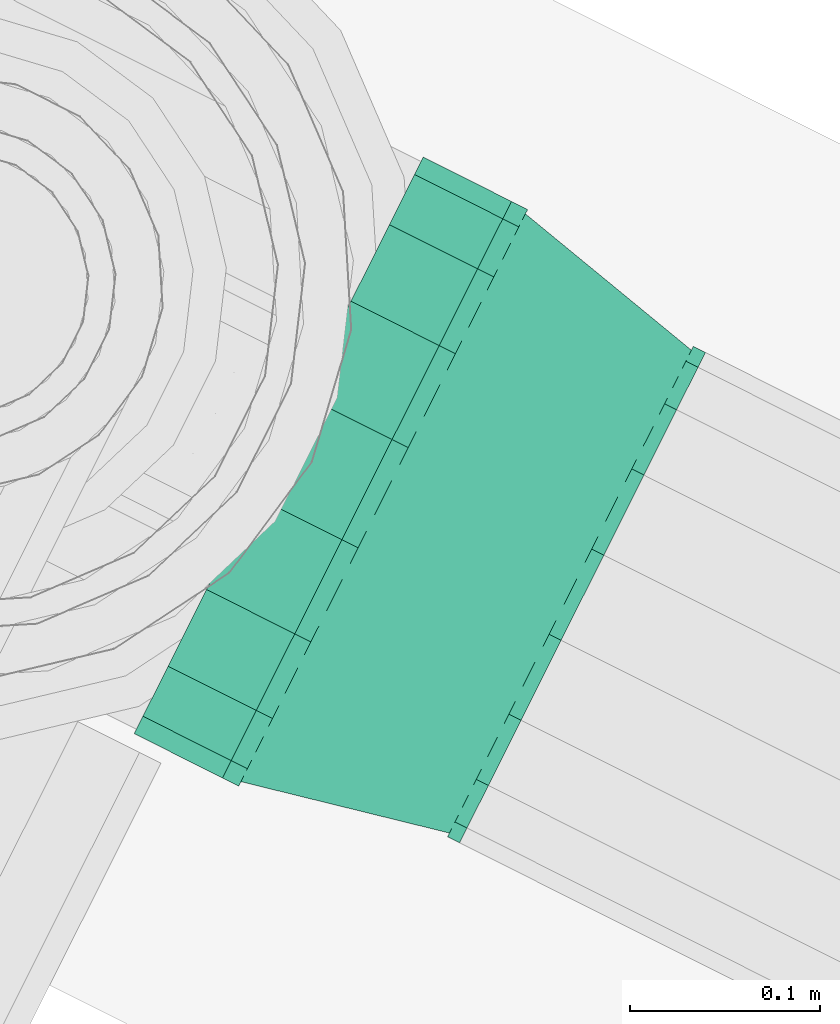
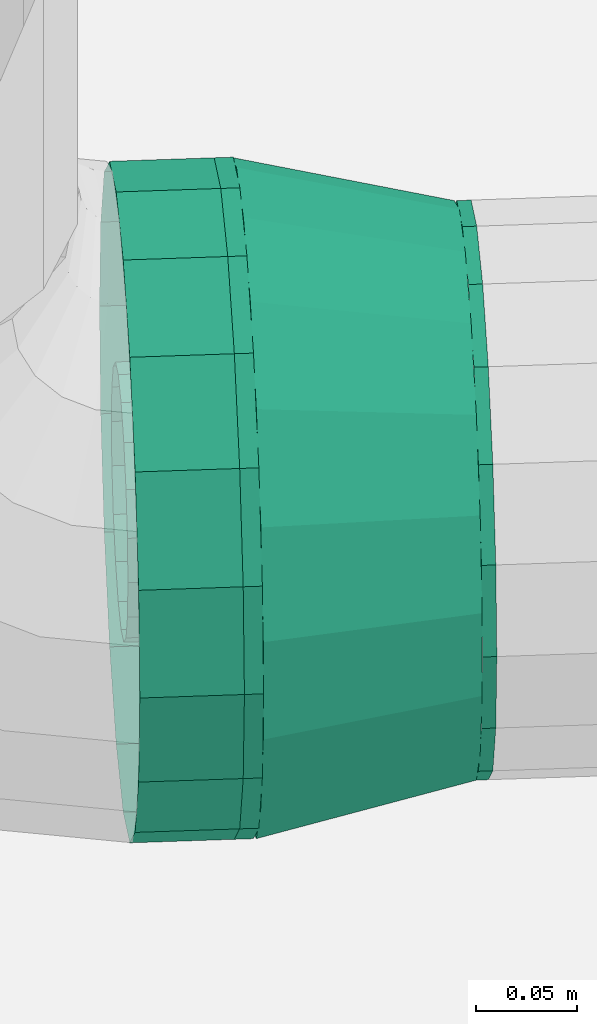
# One storey, part 115 of 152: 1 flow fitting, 1 flow segment.
"""IFC2X3 building model written with IfcOpenShell, lengths in metres."""

from ifc_helpers import new_model, si_unit, derived_unit, direction, frame, origin, place, context, subcontext, project, spatial, face_set, surface_model, source, transform, mapped, material, type_object, type_shapes, element, save


model = new_model("IFC2X3")

# Units and contexts
model_context = context("Model", 3, precision=5.2338327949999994e-05, world=origin(), true_north=direction((0.0, 1.0)))
body_context = subcontext(model_context, "Body", "Model", "MODEL_VIEW")
ifc_project = project(units=[si_unit("LENGTHUNIT", "METRE"), si_unit("AREAUNIT", "SQUARE_METRE"), si_unit("VOLUMEUNIT", "CUBIC_METRE"), si_unit("MASSUNIT", "GRAM", prefix="KILO"), si_unit("PLANEANGLEUNIT", "RADIAN"), derived_unit("THERMALTRANSMITTANCEUNIT", [(si_unit("MASSUNIT", "GRAM", prefix="KILO"), 1), (si_unit("THERMODYNAMICTEMPERATUREUNIT", "KELVIN"), -1), (si_unit("TIMEUNIT", "SECOND"), -3)])], contexts=[model_context])

# Site, building, storey
site_placement = place(None, frame((0.0, 0.0, 0.0), z_axis=(0.0, 0.0, 1.0), x_axis=(0.8939966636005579, -0.4480736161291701, 0.0)))
site = spatial("IfcSite", under=ifc_project, at=site_placement, Name="Default", CompositionType="ELEMENT")
building_placement = place(site_placement, origin())
building = spatial("IfcBuilding", under=site, at=building_placement, CompositionType="ELEMENT")
storey_placement = place(building_placement, frame((0.0, 0.0, 2.7499999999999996)))
storey = spatial("IfcBuildingStorey", under=building, at=storey_placement, Name="1. Obergeschoss", CompositionType="ELEMENT", Elevation=2.7499999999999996)

# Flow fitting
ifc_material = material(Name="IfcSurfaceStyle #9317")
distribution_element_type_1 = type_object("IfcDistributionElementType", Name="Übergangsstück 230215:Übergangsstück 230215", material=ifc_material)
shared_shape_1 = source(origin(), body_context, "Body", "SurfaceModel", [
    surface_model("IfcFaceBasedSurfaceModel", [(9.994770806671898, 7.282758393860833, 3.325154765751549), (9.994770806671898, 7.285439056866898, 3.3403575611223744), (9.987621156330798, 7.285439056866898, 3.3403575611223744), (9.987621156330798, 7.282758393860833, 3.325154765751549), (9.994770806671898, 7.293157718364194, 3.3537266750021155), (9.987621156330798, 7.293157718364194, 3.3537266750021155), (9.994770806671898, 7.304983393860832, 3.363649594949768), (9.987621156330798, 7.304983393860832, 3.363649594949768), (9.994770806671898, 7.319489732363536, 3.368929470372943), (9.987621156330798, 7.319489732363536, 3.368929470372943), (9.994770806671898, 7.334927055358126, 3.3689294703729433), (9.987621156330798, 7.334927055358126, 3.3689294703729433), (9.994770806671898, 7.349433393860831, 3.3636495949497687), (9.987621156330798, 7.349433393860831, 3.3636495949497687), (9.994770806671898, 7.3612590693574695, 3.353726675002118), (9.987621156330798, 7.3612590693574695, 3.353726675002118), (9.994770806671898, 7.368977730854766, 3.3403575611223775), (9.987621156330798, 7.368977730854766, 3.3403575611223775), (9.994770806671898, 7.371658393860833, 3.3251547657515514), (9.987621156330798, 7.371658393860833, 3.3251547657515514), (9.994770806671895, 7.368977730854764, 3.3099519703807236), (9.987621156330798, 7.368977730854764, 3.309951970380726), (9.994770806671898, 7.361259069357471, 3.2965828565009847), (9.987621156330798, 7.361259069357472, 3.2965828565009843), (9.994770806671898, 7.349433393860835, 3.2866599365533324), (9.987621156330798, 7.349433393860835, 3.2866599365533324), (9.994770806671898, 7.334927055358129, 3.2813800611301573), (9.987621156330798, 7.334927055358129, 3.2813800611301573), (9.994770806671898, 7.3194897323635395, 3.2813800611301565), (9.987621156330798, 7.3194897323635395, 3.2813800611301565), (9.994770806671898, 7.304983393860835, 3.2866599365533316), (9.987621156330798, 7.304983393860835, 3.2866599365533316), (9.994770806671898, 7.293157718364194, 3.296582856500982), (9.987621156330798, 7.293157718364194, 3.296582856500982), (9.994770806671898, 7.2854390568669, 3.3099519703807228), (9.987621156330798, 7.2854390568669, 3.3099519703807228), (9.987621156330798, 7.327208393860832, 3.36960476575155), (9.987621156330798, 7.342411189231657, 3.3669241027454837), (9.877299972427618, 7.35109850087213, 3.390792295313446), (9.877299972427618, 7.3272083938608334, 3.39500476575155), (9.987621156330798, 7.3557803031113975, 3.359205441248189), (9.877299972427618, 7.372107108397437, 3.3786629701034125), (9.987621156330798, 7.36570322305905, 3.3473797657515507), (9.877299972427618, 7.387700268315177, 3.360079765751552), (9.987621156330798, 7.370983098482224, 3.3328734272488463), (9.877299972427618, 7.395997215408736, 3.3372840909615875), (9.987621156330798, 7.370983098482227, 3.3174361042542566), (9.877299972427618, 7.395997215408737, 3.3130254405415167), (9.987621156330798, 7.365703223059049, 3.3029297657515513), (9.877299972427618, 7.387700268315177, 3.290229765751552), (9.987621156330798, 7.355780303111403, 3.291104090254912), (9.877299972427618, 7.372107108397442, 3.27164656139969), (9.987621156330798, 7.342411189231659, 3.283385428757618), (9.877299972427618, 7.351098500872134, 3.259517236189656), (9.987621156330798, 7.327208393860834, 3.2807047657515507), (9.877299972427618, 7.327208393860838, 3.2553047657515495), (9.987621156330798, 7.312005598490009, 3.2833854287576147), (9.877299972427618, 7.303318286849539, 3.2595172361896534), (9.987621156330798, 7.2986364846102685, 3.2911040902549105), (9.877299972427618, 7.28230967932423, 3.2716465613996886), (9.987621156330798, 7.288713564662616, 3.302929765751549), (9.877299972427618, 7.266716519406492, 3.290229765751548), (9.987621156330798, 7.283433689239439, 3.3174361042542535), (9.877299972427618, 7.258419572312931, 3.3130254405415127), (9.987621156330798, 7.2834336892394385, 3.3328734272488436), (9.877299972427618, 7.25841957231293, 3.3372840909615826), (9.987621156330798, 7.288713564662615, 3.347379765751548), (9.877299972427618, 7.266716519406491, 3.3600797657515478), (9.987621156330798, 7.298636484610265, 3.3592054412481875), (9.877299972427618, 7.282309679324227, 3.378662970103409), (9.987621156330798, 7.312005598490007, 3.3669241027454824), (9.877299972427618, 7.303318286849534, 3.390792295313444), (9.87729997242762, 7.257358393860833, 3.325154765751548), (9.87729997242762, 7.261570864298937, 3.349044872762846), (9.8677708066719, 7.261570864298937, 3.349044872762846), (9.8677708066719, 7.257358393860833, 3.325154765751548), (9.87729997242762, 7.273700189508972, 3.370053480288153), (9.8677708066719, 7.273700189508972, 3.370053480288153), (9.87729997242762, 7.2922833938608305, 3.385646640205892), (9.8677708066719, 7.2922833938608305, 3.385646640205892), (9.87729997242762, 7.315079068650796, 3.393943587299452), (9.8677708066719, 7.315079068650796, 3.393943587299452), (9.87729997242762, 7.339337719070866, 3.3939435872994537), (9.8677708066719, 7.339337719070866, 3.3939435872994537), (9.87729997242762, 7.362133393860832, 3.3856466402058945), (9.8677708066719, 7.362133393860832, 3.3856466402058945), (9.87729997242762, 7.380716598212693, 3.3700534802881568), (9.8677708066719, 7.380716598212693, 3.3700534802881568), (9.87729997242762, 7.392845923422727, 3.3490448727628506), (9.8677708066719, 7.392845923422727, 3.3490448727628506), (9.87729997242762, 7.397058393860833, 3.325154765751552), (9.8677708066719, 7.397058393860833, 3.325154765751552), (9.87729997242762, 7.392845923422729, 3.301264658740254), (9.8677708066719, 7.392845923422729, 3.301264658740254), (9.87729997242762, 7.380716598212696, 3.2802560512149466), (9.8677708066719, 7.380716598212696, 3.2802560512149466), (9.87729997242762, 7.362133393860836, 3.2646628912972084), (9.8677708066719, 7.362133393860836, 3.2646628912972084), (9.87729997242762, 7.339337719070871, 3.256365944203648), (9.8677708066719, 7.339337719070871, 3.256365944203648), (9.87729997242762, 7.3150790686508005, 3.256365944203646), (9.8677708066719, 7.3150790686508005, 3.256365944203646), (9.87729997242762, 7.292283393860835, 3.2646628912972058), (9.8677708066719, 7.292283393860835, 3.2646628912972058), (9.87729997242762, 7.273700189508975, 3.2802560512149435), (9.8677708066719, 7.273700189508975, 3.2802560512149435), (9.87729997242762, 7.261570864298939, 3.301264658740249), (9.8677708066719, 7.261570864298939, 3.301264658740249), (9.994770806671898, 7.182758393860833, 3.3251547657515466), (9.994770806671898, 7.191469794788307, 3.374559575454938), (9.987621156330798, 7.191469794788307, 3.374559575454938), (9.987621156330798, 7.182758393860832, 3.3251547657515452), (9.994770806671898, 7.216553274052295, 3.418005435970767), (9.987621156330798, 7.216553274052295, 3.418005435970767), (9.994770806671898, 7.254983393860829, 3.4502521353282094), (9.987621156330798, 7.254983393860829, 3.4502521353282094), (9.994770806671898, 7.302124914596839, 3.4674102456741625), (9.987621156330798, 7.302124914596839, 3.4674102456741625), (9.994770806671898, 7.352291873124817, 3.467410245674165), (9.987621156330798, 7.352291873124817, 3.467410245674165), (9.994770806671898, 7.3994333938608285, 3.4502521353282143), (9.987621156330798, 7.3994333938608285, 3.4502521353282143), (9.994770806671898, 7.437863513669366, 3.4180054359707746), (9.987621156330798, 7.437863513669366, 3.4180054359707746), (9.994770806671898, 7.462946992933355, 3.3745595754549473), (9.987621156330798, 7.462946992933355, 3.3745595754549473), (9.994770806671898, 7.471658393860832, 3.3251547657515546), (9.987621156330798, 7.471658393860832, 3.3251547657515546), (9.994770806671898, 7.462946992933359, 3.275749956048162), (9.987621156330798, 7.462946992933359, 3.275749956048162), (9.994770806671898, 7.437863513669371, 3.232304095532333), (9.987621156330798, 7.437863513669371, 3.232304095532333), (9.994770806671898, 7.399433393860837, 3.200057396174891), (9.987621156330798, 7.399433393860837, 3.200057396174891), (9.994770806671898, 7.352291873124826, 3.182899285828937), (9.987621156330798, 7.352291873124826, 3.182899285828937), (9.994770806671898, 7.302124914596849, 3.182899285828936), (9.987621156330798, 7.302124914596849, 3.182899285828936), (9.994770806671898, 7.254983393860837, 3.200057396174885), (9.987621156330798, 7.254983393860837, 3.200057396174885), (9.994770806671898, 7.2165532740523, 3.2323040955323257), (9.987621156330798, 7.2165532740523, 3.2323040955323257), (9.994770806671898, 7.19146979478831, 3.275749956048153), (9.987621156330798, 7.19146979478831, 3.275749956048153), (9.987621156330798, 7.327208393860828, 3.46960476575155), (9.987621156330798, 7.376613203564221, 3.460893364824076), (9.877299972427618, 7.385300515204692, 3.4847615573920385), (9.877299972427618, 7.327208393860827, 3.4950047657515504), (9.987621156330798, 7.42005906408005, 3.43580988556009), (9.877299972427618, 7.436385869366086, 3.455267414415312), (9.987621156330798, 7.452305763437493, 3.397379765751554), (9.877299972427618, 7.474302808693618, 3.410079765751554), (9.987621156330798, 7.469463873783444, 3.350238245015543), (9.877299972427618, 7.494477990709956, 3.354648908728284), (9.987621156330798, 7.469463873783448, 3.300071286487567), (9.877299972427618, 7.494477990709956, 3.295660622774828), (9.987621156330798, 7.452305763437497, 3.2529297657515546), (9.877299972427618, 7.474302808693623, 3.2402297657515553), (9.987621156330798, 7.420059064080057, 3.214499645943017), (9.877299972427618, 7.436385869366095, 3.1950421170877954), (9.987621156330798, 7.376613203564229, 3.1894161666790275), (9.877299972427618, 7.385300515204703, 3.1655479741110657), (9.987621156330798, 7.327208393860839, 3.18070476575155), (9.877299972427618, 7.327208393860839, 3.1553047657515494), (9.987621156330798, 7.277803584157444, 3.189416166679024), (9.877299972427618, 7.269116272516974, 3.165547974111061), (9.987621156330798, 7.234357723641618, 3.2144996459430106), (9.877299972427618, 7.218030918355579, 3.195042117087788), (9.987621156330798, 7.202111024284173, 3.252929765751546), (9.877299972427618, 7.180113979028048, 3.2402297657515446), (9.987621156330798, 7.184952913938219, 3.300071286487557), (9.877299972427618, 7.15993879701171, 3.2956606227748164), (9.987621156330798, 7.184952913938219, 3.3502382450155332), (9.877299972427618, 7.159938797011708, 3.354648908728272), (9.987621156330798, 7.202111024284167, 3.397379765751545), (9.877299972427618, 7.180113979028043, 3.4100797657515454), (9.987621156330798, 7.23435772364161, 3.4358098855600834), (9.877299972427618, 7.218030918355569, 3.4552674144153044), (9.987621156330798, 7.277803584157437, 3.4608933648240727), (9.877299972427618, 7.269116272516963, 3.484761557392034), (9.87729997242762, 7.157358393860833, 3.325154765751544), (9.87729997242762, 7.167601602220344, 3.3832468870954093), (9.8677708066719, 7.167601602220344, 3.3832468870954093), (9.8677708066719, 7.157358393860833, 3.325154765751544), (9.87729997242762, 7.197095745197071, 3.4343322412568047), (9.8677708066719, 7.197095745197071, 3.4343322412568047), (9.87729997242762, 7.242283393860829, 3.472249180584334), (9.8677708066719, 7.242283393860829, 3.472249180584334), (9.87729997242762, 7.297714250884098, 3.4924243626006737), (9.8677708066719, 7.297714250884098, 3.4924243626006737), (9.87729997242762, 7.356702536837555, 3.4924243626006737), (9.8677708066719, 7.356702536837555, 3.4924243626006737), (9.87729997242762, 7.412133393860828, 3.472249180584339), (9.8677708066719, 7.412133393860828, 3.472249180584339), (9.87729997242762, 7.457321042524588, 3.4343322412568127), (9.8677708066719, 7.457321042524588, 3.4343322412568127), (9.87729997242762, 7.486815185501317, 3.38324688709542), (9.8677708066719, 7.486815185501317, 3.38324688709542), (9.87729997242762, 7.497058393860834, 3.325154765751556), (9.8677708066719, 7.497058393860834, 3.325154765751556), (9.87729997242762, 7.486815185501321, 3.2670626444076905), (9.8677708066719, 7.486815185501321, 3.2670626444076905), (9.87729997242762, 7.457321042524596, 3.2159772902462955), (9.8677708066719, 7.457321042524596, 3.2159772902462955), (9.87729997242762, 7.412133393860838, 3.178060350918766), (9.8677708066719, 7.412133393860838, 3.178060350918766), (9.87729997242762, 7.356702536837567, 3.157885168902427), (9.8677708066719, 7.356702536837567, 3.157885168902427), (9.87729997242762, 7.29771425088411, 3.157885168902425), (9.8677708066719, 7.29771425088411, 3.157885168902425), (9.87729997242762, 7.242283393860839, 3.17806035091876), (9.8677708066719, 7.242283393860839, 3.17806035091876), (9.87729997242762, 7.197095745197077, 3.2159772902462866), (9.8677708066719, 7.197095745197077, 3.2159772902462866), (9.87729997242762, 7.167601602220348, 3.2670626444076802), (9.8677708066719, 7.167601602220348, 3.2670626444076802)], [face_set([[[0, 1, 2, 3]], [[1, 4, 5, 2]], [[4, 6, 7, 5]], [[6, 8, 9, 7]], [[8, 10, 11, 9]], [[10, 12, 13, 11]], [[12, 14, 15, 13]], [[14, 16, 17, 15]], [[16, 18, 19, 17]], [[18, 20, 21, 19]], [[20, 22, 23, 21]], [[22, 24, 25, 23]], [[24, 26, 27, 25]], [[26, 28, 29, 27]], [[28, 30, 31, 29]], [[30, 32, 33, 31]], [[32, 34, 35, 33]], [[34, 0, 3, 35]], [[36, 37, 38, 39]], [[37, 40, 41, 38]], [[40, 42, 43, 41]], [[42, 44, 45, 43]], [[44, 46, 47, 45]], [[46, 48, 49, 47]], [[48, 50, 51, 49]], [[50, 52, 53, 51]], [[52, 54, 55, 53]], [[54, 56, 57, 55]], [[56, 58, 59, 57]], [[58, 60, 61, 59]], [[60, 62, 63, 61]], [[62, 64, 65, 63]], [[64, 66, 67, 65]], [[66, 68, 69, 67]], [[68, 70, 71, 69]], [[70, 36, 39, 71]], [[72, 73, 74, 75]], [[73, 76, 77, 74]], [[76, 78, 79, 77]], [[78, 80, 81, 79]], [[80, 82, 83, 81]], [[82, 84, 85, 83]], [[84, 86, 87, 85]], [[86, 88, 89, 87]], [[88, 90, 91, 89]], [[90, 92, 93, 91]], [[92, 94, 95, 93]], [[94, 96, 97, 95]], [[96, 98, 99, 97]], [[98, 100, 101, 99]], [[100, 102, 103, 101]], [[102, 104, 105, 103]], [[104, 106, 107, 105]], [[106, 72, 75, 107]], [[108, 109, 110, 111]], [[109, 112, 113, 110]], [[112, 114, 115, 113]], [[114, 116, 117, 115]], [[116, 118, 119, 117]], [[118, 120, 121, 119]], [[120, 122, 123, 121]], [[122, 124, 125, 123]], [[124, 126, 127, 125]], [[126, 128, 129, 127]], [[128, 130, 131, 129]], [[130, 132, 133, 131]], [[132, 134, 135, 133]], [[134, 136, 137, 135]], [[136, 138, 139, 137]], [[138, 140, 141, 139]], [[140, 142, 143, 141]], [[142, 108, 111, 143]], [[144, 145, 146, 147]], [[145, 148, 149, 146]], [[148, 150, 151, 149]], [[150, 152, 153, 151]], [[152, 154, 155, 153]], [[154, 156, 157, 155]], [[156, 158, 159, 157]], [[158, 160, 161, 159]], [[160, 162, 163, 161]], [[162, 164, 165, 163]], [[164, 166, 167, 165]], [[166, 168, 169, 167]], [[168, 170, 171, 169]], [[170, 172, 173, 171]], [[172, 174, 175, 173]], [[174, 176, 177, 175]], [[176, 178, 179, 177]], [[178, 144, 147, 179]], [[180, 181, 182, 183]], [[181, 184, 185, 182]], [[184, 186, 187, 185]], [[186, 188, 189, 187]], [[188, 190, 191, 189]], [[190, 192, 193, 191]], [[192, 194, 195, 193]], [[194, 196, 197, 195]], [[196, 198, 199, 197]], [[198, 200, 201, 199]], [[200, 202, 203, 201]], [[202, 204, 205, 203]], [[204, 206, 207, 205]], [[206, 208, 209, 207]], [[208, 210, 211, 209]], [[210, 212, 213, 211]], [[212, 214, 215, 213]], [[214, 180, 183, 215]]])]),
])
type_shapes(distribution_element_type_1, [shared_shape_1])
flow_fitting_placement = place(storey_placement, frame((0.0, 0.0, -2.7499999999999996)))
element("IfcFlowFitting", 1, at=flow_fitting_placement, inside=storey, type_object=distribution_element_type_1, material=ifc_material, Name="Übergangsstück", ObjectType="Übergangsstück", context=body_context, shape_type="MappedRepresentation", body=[
    mapped(shared_shape_1, transform((0.0, 0.0, 0.0), scale=1.0)),
])

# Flow segment
distribution_element_type_2 = type_object("IfcDistributionElementType", Name="Stahlrohr nach DIN 2448 231212:Stahlrohr nach DIN 2448 231212", material=ifc_material)
shared_shape_2 = source(origin(), body_context, "Body", "SurfaceModel", [
    surface_model("IfcFaceBasedSurfaceModel", [(9.8677708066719, 7.397058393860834, 3.325154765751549), (9.8677708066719, 7.39284592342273, 3.301264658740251), (9.8157708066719, 7.39284592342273, 3.301264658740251), (9.8157708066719, 7.397058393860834, 3.3251547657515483), (9.8677708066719, 7.380716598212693, 3.2802560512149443), (9.8157708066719, 7.380716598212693, 3.2802560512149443), (9.8677708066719, 7.362133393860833, 3.2646628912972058), (9.8157708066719, 7.362133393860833, 3.2646628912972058), (9.8677708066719, 7.33933771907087, 3.2563659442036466), (9.8157708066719, 7.33933771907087, 3.2563659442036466), (9.8677708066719, 7.3150790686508, 3.2563659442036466), (9.8157708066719, 7.3150790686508, 3.2563659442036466), (9.8677708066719, 7.292283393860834, 3.2646628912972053), (9.8157708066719, 7.292283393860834, 3.2646628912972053), (9.8677708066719, 7.273700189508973, 3.2802560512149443), (9.8157708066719, 7.273700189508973, 3.2802560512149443), (9.8677708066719, 7.261570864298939, 3.3012646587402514), (9.8157708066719, 7.261570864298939, 3.3012646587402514), (9.8677708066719, 7.257358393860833, 3.325154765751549), (9.8157708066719, 7.257358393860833, 3.325154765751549), (9.8677708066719, 7.261570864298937, 3.349044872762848), (9.8157708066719, 7.261570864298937, 3.349044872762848), (9.8677708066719, 7.273700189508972, 3.370053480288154), (9.8157708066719, 7.273700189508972, 3.370053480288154), (9.8677708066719, 7.292283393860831, 3.3856466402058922), (9.8157708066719, 7.292283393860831, 3.3856466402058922), (9.8677708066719, 7.315079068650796, 3.393943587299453), (9.8157708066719, 7.315079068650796, 3.393943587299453), (9.8677708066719, 7.339337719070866, 3.393943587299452), (9.8157708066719, 7.339337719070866, 3.393943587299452), (9.8677708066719, 7.362133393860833, 3.385646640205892), (9.8157708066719, 7.362133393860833, 3.385646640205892), (9.8677708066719, 7.380716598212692, 3.3700534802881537), (9.8157708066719, 7.380716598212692, 3.3700534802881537), (9.8677708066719, 7.392845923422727, 3.349044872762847), (9.8157708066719, 7.392845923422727, 3.349044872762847), (9.8677708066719, 7.497058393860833, 3.325154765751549), (9.8677708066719, 7.486815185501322, 3.2670626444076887), (9.8157708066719, 7.486815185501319, 3.2670626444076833), (9.8157708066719, 7.49705839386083, 3.3251547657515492), (9.8677708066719, 7.457321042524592, 3.2159772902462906), (9.8157708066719, 7.457321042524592, 3.2159772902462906), (9.8677708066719, 7.4121333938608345, 3.178060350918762), (9.8157708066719, 7.4121333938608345, 3.178060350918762), (9.8677708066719, 7.356702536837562, 3.1578851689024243), (9.8157708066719, 7.356702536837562, 3.1578851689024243), (9.8677708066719, 7.297714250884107, 3.157885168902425), (9.8157708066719, 7.297714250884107, 3.157885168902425), (9.8677708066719, 7.242283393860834, 3.1780603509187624), (9.8157708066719, 7.242283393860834, 3.1780603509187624), (9.8677708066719, 7.197095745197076, 3.21597729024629), (9.8157708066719, 7.197095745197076, 3.21597729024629), (9.8677708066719, 7.167601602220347, 3.267062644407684), (9.8157708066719, 7.167601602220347, 3.267062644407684), (9.8677708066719, 7.157358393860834, 3.3251547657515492), (9.8157708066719, 7.157358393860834, 3.3251547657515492), (9.8677708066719, 7.167601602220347, 3.3832468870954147), (9.8157708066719, 7.167601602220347, 3.3832468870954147), (9.8677708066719, 7.197095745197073, 3.4343322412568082), (9.8157708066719, 7.197095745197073, 3.4343322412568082), (9.8677708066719, 7.2422833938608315, 3.4722491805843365), (9.8157708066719, 7.2422833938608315, 3.4722491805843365), (9.8677708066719, 7.297714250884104, 3.4924243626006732), (9.8157708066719, 7.297714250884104, 3.4924243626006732), (9.8677708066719, 7.356702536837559, 3.4924243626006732), (9.8157708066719, 7.356702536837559, 3.4924243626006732), (9.8677708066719, 7.412133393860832, 3.4722491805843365), (9.8157708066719, 7.412133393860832, 3.4722491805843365), (9.8677708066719, 7.45732104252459, 3.4343322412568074), (9.8157708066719, 7.45732104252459, 3.4343322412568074), (9.8677708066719, 7.486815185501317, 3.3832468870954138), (9.8157708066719, 7.486815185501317, 3.3832468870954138)], [face_set([[[0, 1, 2, 3]], [[1, 4, 5, 2]], [[4, 6, 7, 5]], [[6, 8, 9, 7]], [[8, 10, 11, 9]], [[10, 12, 13, 11]], [[12, 14, 15, 13]], [[14, 16, 17, 15]], [[16, 18, 19, 17]], [[18, 20, 21, 19]], [[20, 22, 23, 21]], [[22, 24, 25, 23]], [[24, 26, 27, 25]], [[26, 28, 29, 27]], [[28, 30, 31, 29]], [[30, 32, 33, 31]], [[32, 34, 35, 33]], [[34, 0, 3, 35]], [[36, 37, 38, 39]], [[37, 40, 41, 38]], [[40, 42, 43, 41]], [[42, 44, 45, 43]], [[44, 46, 47, 45]], [[46, 48, 49, 47]], [[48, 50, 51, 49]], [[50, 52, 53, 51]], [[52, 54, 55, 53]], [[54, 56, 57, 55]], [[56, 58, 59, 57]], [[58, 60, 61, 59]], [[60, 62, 63, 61]], [[62, 64, 65, 63]], [[64, 66, 67, 65]], [[66, 68, 69, 67]], [[68, 70, 71, 69]], [[70, 36, 39, 71]]])]),
])
type_shapes(distribution_element_type_2, [shared_shape_2])
flow_segment_placement = place(storey_placement, frame((0.0, 0.0, -2.7499999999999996)))
element("IfcFlowSegment", 2, at=flow_segment_placement, inside=storey, type_object=distribution_element_type_2, material=ifc_material, Name="Stahlrohr nach DIN 2448", ObjectType="Stahlrohr nach DIN 2448", context=body_context, shape_type="MappedRepresentation", body=[
    mapped(shared_shape_2, transform((0.0, 0.0, 0.0), scale=1.0)),
])

save(model, "model.ifc")
